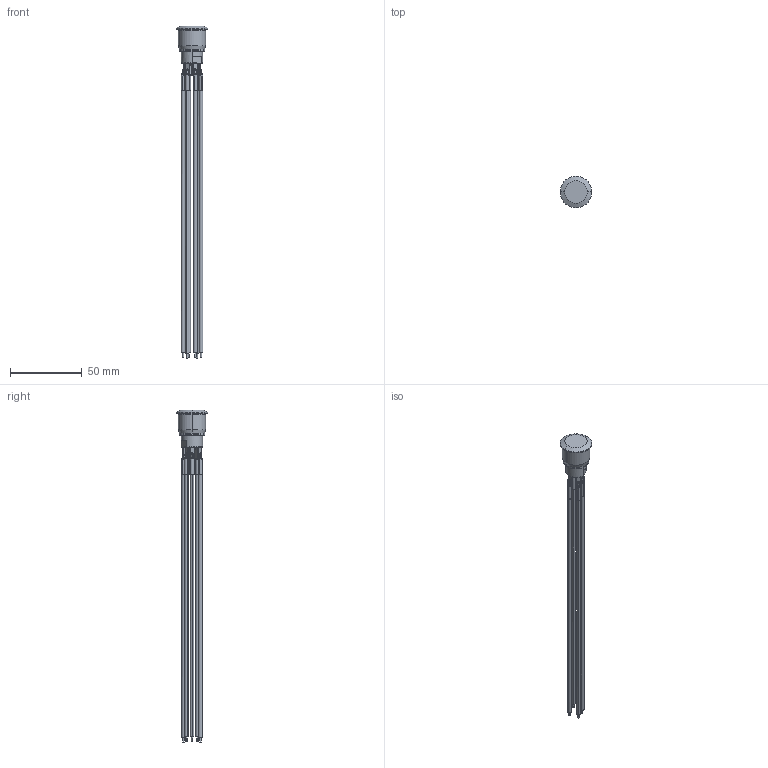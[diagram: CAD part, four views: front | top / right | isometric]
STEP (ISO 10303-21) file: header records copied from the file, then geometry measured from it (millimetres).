
FILE_DESCRIPTION((''),'2;1');
FILE_NAME('AV9222F1020840K','2014-12-16T',('brevel'),(''),'PRO/ENGINEER BY PARAMETRIC TECHNOLOGY CORPORATION, 2013410','PRO/ENGINEER BY PARAMETRIC TECHNOLOGY CORPORATION, 2013410','');
FILE_SCHEMA(('CONFIG_CONTROL_DESIGN'));
Length unit declared in the file: millimetre
Products named in the file (1): AV9222F1020840K
Bounding box: 22 x 22 x 231.5 mm (x, y, z)
Volume: 12202.5 mm3; surface area: 12804.4 mm2
Topology: 1 solids, 1 shells, 756 faces, 1983 edges, 1226 vertices
Faces by surface type: bspline 248, cylinder 192, plane 160, torus 104, cone 26, sphere 26
Entity records: 33659 total; most frequent: CARTESIAN_POINT 16945, ORIENTED_EDGE 3928, DIRECTION 2992, EDGE_CURVE 1964, AXIS2_PLACEMENT_3D 1236, VERTEX_POINT 1226, EDGE_LOOP 784, FACE_OUTER_BOUND 756
